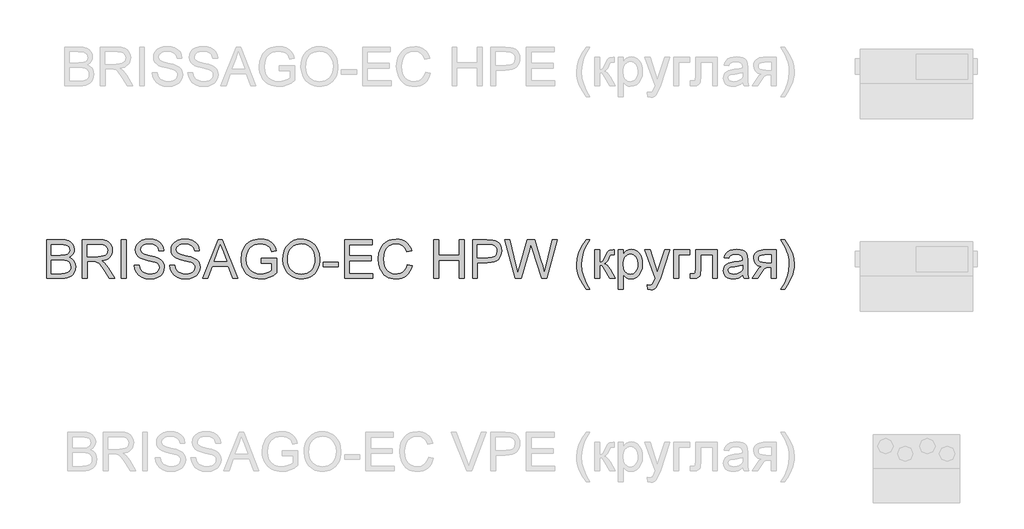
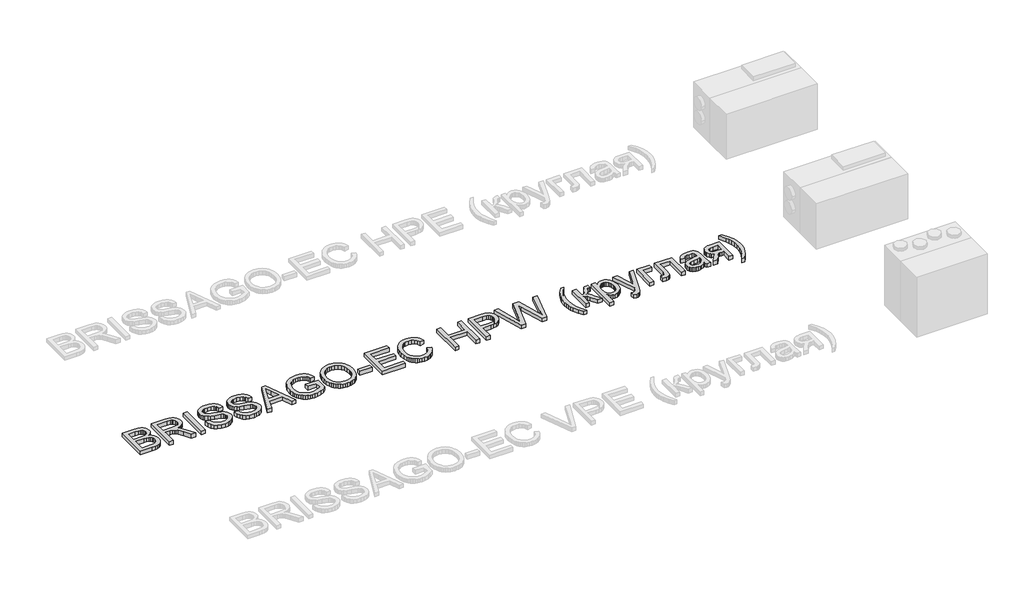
# One storey, part 7 of 28: 1 proxy.
"""IFC4 building model written with IfcOpenShell, lengths in millimetres."""

import ifcopenshell
import ifcopenshell.guid

model = None  # the IFC model being written
_history = None  # IfcOwnerHistory: only IFC2X3 demands one
_inside = {}  # id of a spatial element -> (the spatial element, [elements in it])
_under = {}  # id of a project, library or spatial element -> (it, [spatial elements below it])
_declared = {}  # id of a project -> (the project, [libraries it declares])
_typed = {}  # id of a type object -> (the type object, [elements of that type])
_made_of = {}  # id of a material, layer set ... -> (it, [elements and type objects made of it])


def new_model(schema):
    """Start an empty IFC model of exactly this schema.

    Asked for "IFC4X3", IfcOpenShell would pick the latest addendum, in which some entities
    have other attributes; the version numbers below select the first issue.
    IFC2X3 requires an IfcOwnerHistory on every rooted entity: one is made here for all.
    """
    global model, _history
    if schema == "IFC4X3":
        model = ifcopenshell.file(schema_version=(4, 3, 0, 0))
    else:
        model = ifcopenshell.file(schema=schema)
    _inside.clear()
    _under.clear()
    _declared.clear()
    _typed.clear()
    _made_of.clear()
    _history = None
    if model.schema == "IFC2X3":
        org = make("IfcOrganization", Name="unknown")
        user = make(
            "IfcPersonAndOrganization",
            ThePerson=make("IfcPerson", FamilyName="unknown"),
            TheOrganization=org,
        )
        app = make(
            "IfcApplication",
            ApplicationDeveloper=org,
            Version="unknown",
            ApplicationFullName="unknown",
            ApplicationIdentifier="unknown",
        )
        _history = make(
            "IfcOwnerHistory",
            OwningUser=user,
            OwningApplication=app,
            ChangeAction="ADDED",
            CreationDate=0,
        )
    return model


def make(cls, **values):
    """One entity of the class cls with the attributes given. An attribute that is None is left unset."""
    return model.create_entity(
        cls, **{name: value for name, value in values.items() if value is not None}
    )


def rooted(cls, **values):
    """An entity with a GlobalId (a new one), such as an element, a storey or a relation."""
    return make(cls, GlobalId=ifcopenshell.guid.new(), OwnerHistory=_history, **values)


def si_unit(unit_type, name, prefix=None):
    """IfcSIUnit, for example si_unit("LENGTHUNIT", "METRE", prefix="MILLI")."""
    return make("IfcSIUnit", UnitType=unit_type, Prefix=prefix, Name=name)


def assignment(units):
    """IfcUnitAssignment: the units of a project."""
    return None if units is None else make("IfcUnitAssignment", Units=units)


def point(xyz):
    """IfcCartesianPoint."""
    return None if xyz is None else make("IfcCartesianPoint", Coordinates=xyz)


def direction(xyz):
    """IfcDirection."""
    return None if xyz is None else make("IfcDirection", DirectionRatios=xyz)


def frame(location, z_axis=None, x_axis=None):
    """IfcAxis2Placement3D, a coordinate frame: its origin and axes. An axis left out is left unset."""
    return make(
        "IfcAxis2Placement3D",
        Location=point(location),
        Axis=direction(z_axis),
        RefDirection=direction(x_axis),
    )


def origin():
    """The frame at (0, 0, 0) with its axes left unset."""
    return frame((0.0, 0.0, 0.0))


def origin_with_axes():
    """The frame at (0, 0, 0) with the z axis (0, 0, 1) and the x axis (1, 0, 0) written out."""
    return frame((0.0, 0.0, 0.0), z_axis=(0.0, 0.0, 1.0), x_axis=(1.0, 0.0, 0.0))


def place(relative_to, where):
    """IfcLocalPlacement: puts the frame where relative to a parent placement (None: the world)."""
    return make(
        "IfcLocalPlacement", PlacementRelTo=relative_to, RelativePlacement=where
    )


def context(
    kind, dimensions, precision=None, world=None, true_north=None, identifier=None
):
    """IfcGeometricRepresentationContext, for example the 3D "Model" context."""
    return make(
        "IfcGeometricRepresentationContext",
        ContextIdentifier=identifier,
        ContextType=kind,
        CoordinateSpaceDimension=dimensions,
        Precision=precision,
        WorldCoordinateSystem=world,
        TrueNorth=true_north,
    )


def project(units=None, contexts=None):
    """IfcProject with its units and contexts."""
    return rooted(
        "IfcProject",
        Name="project",
        RepresentationContexts=contexts,
        UnitsInContext=assignment(units),
    )


def spatial(cls, under=None, at=None, **own):
    """A site, building, storey or space (cls), placed at a placement, below another one or the project."""
    s = rooted(cls, ObjectPlacement=at, **own)
    if under is not None:
        _under.setdefault(under.id(), (under, []))[1].append(s)
    return s


def polyline(points):
    """IfcPolyline through the points."""
    return make("IfcPolyline", Points=[point(p) for p in points])


def outline(outer, holes=None, kind="AREA"):
    """IfcArbitraryClosedProfileDef: a profile drawn as a closed curve; with holes, ...WithVoids."""
    if holes is None:
        return make("IfcArbitraryClosedProfileDef", ProfileType=kind, OuterCurve=outer)
    return make(
        "IfcArbitraryProfileDefWithVoids",
        ProfileType=kind,
        OuterCurve=outer,
        InnerCurves=holes,
    )


def extrude(swept, where, along, depth):
    """IfcExtrudedAreaSolid: the profile swept, set in the frame where, extruded along a direction by depth."""
    return make(
        "IfcExtrudedAreaSolid",
        SweptArea=swept,
        Position=where,
        ExtrudedDirection=direction(along),
        Depth=depth,
    )


def shape(context_of_items, identifier, shape_type, items):
    """IfcShapeRepresentation: the items that make up one representation, for example the "Body"."""
    return make(
        "IfcShapeRepresentation",
        ContextOfItems=context_of_items,
        RepresentationIdentifier=identifier,
        RepresentationType=shape_type,
        Items=items,
    )


def made_of(thing, what):
    """Note that an element or type object is made of a material, layer set ...; save() writes the relation."""
    if what is not None:
        _made_of.setdefault(what.id(), (what, []))[1].append(thing)
    return thing


def element(
    cls,
    number,
    at=None,
    inside=None,
    cuts=None,
    type_object=None,
    material=None,
    context=None,
    identifier="Body",
    shape_type=None,
    held_by="IfcProductDefinitionShape",
    body=None,
    shapes=None,
    **own,
):
    """One element of the class cls, such as IfcWall. Its Tag is "e" and its number.

    at: its placement. inside: the storey or other place that contains it. cuts: it is an
    opening in that element (IfcRelVoidsElement). A single representation is given by context,
    identifier, shape_type and body (its items); several are given by shapes. held_by: the class
    of the entity that holds the representations. save() writes the other relations.
    """
    e = rooted(cls, Tag="e%d" % number, ObjectPlacement=at, **own)
    if body is not None:
        shapes = [shape(context, identifier, shape_type, body)]
    if shapes is not None:
        e.Representation = make(held_by, Representations=shapes)
    if inside is not None:
        _inside.setdefault(inside.id(), (inside, []))[1].append(e)
    if cuts is not None:
        rooted(
            "IfcRelVoidsElement", RelatingBuildingElement=cuts, RelatedOpeningElement=e
        )
    if type_object is not None:
        _typed.setdefault(type_object.id(), (type_object, []))[1].append(e)
    return made_of(e, material)


def aggregate(whole, parts):
    """IfcRelAggregates: a whole, such as a stair, and the parts it consists of."""
    return rooted("IfcRelAggregates", RelatingObject=whole, RelatedObjects=parts)


def save(model, path):
    """Write the relations noted so far, then the file.

    IfcRelAggregates (storeys below a building ...), IfcRelContainedInSpatialStructure (elements
    in a storey), IfcRelDefinesByType, IfcRelAssociatesMaterial and IfcRelDeclares: one each for
    every whole, place, type object, material and project.
    """
    for whole, parts in _under.values():
        aggregate(whole, parts)
    for where, things in _inside.values():
        rooted(
            "IfcRelContainedInSpatialStructure",
            RelatedElements=things,
            RelatingStructure=where,
        )
    for kind, things in _typed.values():
        rooted("IfcRelDefinesByType", RelatedObjects=things, RelatingType=kind)
    for what, things in _made_of.values():
        rooted("IfcRelAssociatesMaterial", RelatedObjects=things, RelatingMaterial=what)
    for by, libraries in _declared.values():
        rooted("IfcRelDeclares", RelatingContext=by, RelatedDefinitions=libraries)
    model.write(path)


model = new_model("IFC4")

# Units and contexts
model_context = context("Model", 3, world=origin())
ifc_project = project(units=[si_unit("LENGTHUNIT", "METRE", prefix="MILLI")], contexts=[model_context])

# Site, building, storey
site = spatial("IfcSite", under=ifc_project)
building = spatial("IfcBuilding", under=site)
storey = spatial("IfcBuildingStorey", under=building, Name="Уровень 1", Elevation=0.0)

# Proxy
placement = place(None, origin())
element("IfcBuildingElementProxy", 1, Name="400 мм Arial", ObjectType="400 мм Arial", at=placement, inside=storey, context=model_context, shape_type="SweptSolid", body=[
    extrude(outline(polyline([(-29713.9650694, -8348.7092589), (-29713.9650694, -7946.8840183), (-29560.6318538, -7946.8840183), (-29518.4603145, -7949.839337), (-29485.5348759, -7958.705293), (-29460.298171, -7973.7026157), (-29441.1928327, -7995.0520342), (-29429.1630915, -8020.1661117), (-29425.1531778, -8046.4574116), (-29428.5254294, -8070.6517842), (-29438.6421842, -8093.3991542), (-29455.5770188, -8113.3015701), (-29479.4035093, -8128.9610804), (-29450.9417056, -8143.823513), (-29429.9111182, -8166.435993), (-29416.9248838, -8195.3024669), (-29412.596139, -8228.9268812), (-29415.5514577, -8256.9472265), (-29424.4174138, -8282.9319581), (-29437.6489029, -8305.0294033), (-29453.7008206, -8321.3878893), (-29473.3579819, -8333.2336896), (-29497.4052016, -8341.7930773), (-29526.6272948, -8346.9802135), (-29561.8090762, -8348.7092589), (-29713.9650694, -8348.7092589)]), holes=[polyline([(-29663.7369144, -8110.1255223), (-29572.0116702, -8110.1255223), (-29518.4480517, -8105.8090402), (-29499.6983327, -8098.3655611), (-29486.221589, -8087.2187367), (-29478.0913969, -8072.5402451), (-29475.3813328, -8054.5017646), (-29477.9074559, -8036.9905816), (-29485.485825, -8021.7357415), (-29497.7730836, -8009.8286276), (-29514.4258753, -8002.3606231), (-29539.9814112, -7998.4242858), (-29578.9769027, -7997.1121733), (-29663.7369144, -7997.1121733), (-29663.7369144, -8110.1255223)]), polyline([(-29663.7369144, -8298.4811038), (-29560.7299557, -8298.4811038), (-29523.4512469, -8296.5190665), (-29491.9114972, -8285.5807085), (-29480.335477, -8276.1506667), (-29471.0157998, -8263.2625341), (-29464.8721705, -8247.4926593), (-29462.8242941, -8229.4173906), (-29465.2277898, -8208.4235914), (-29472.4382769, -8190.3728481), (-29485.0321038, -8176.2584423), (-29503.5856191, -8167.0736551), (-29529.8646563, -8162.0336718), (-29565.635049, -8160.3536773), (-29663.7369144, -8160.3536773), (-29663.7369144, -8298.4811038)])]), origin_with_axes(), (0.0, 0.0, 1.0), 50.0),
    extrude(outline(polyline([(-29343.5324258, -8348.7092589), (-29343.5324258, -7946.8840183), (-29170.3826334, -7946.8840183), (-29123.845561, -7949.5940823), (-29089.9881547, -7957.7242744), (-29065.2419591, -7972.7338598), (-29046.038519, -7996.0821037), (-29033.7144722, -8025.0344168), (-29029.6064565, -8056.8562094), (-29031.3079108, -8077.4943893), (-29036.4122735, -8096.440312), (-29044.9195446, -8113.6939776), (-29056.8297242, -8129.255386), (-29072.2960964, -8142.6278965), (-29091.4719454, -8153.3148685), (-29114.3572712, -8161.3163019), (-29140.9520738, -8166.6321967), (-29112.4044309, -8188.1165052), (-29071.6921568, -8239.8161883), (-29004.6885827, -8348.7092589), (-29063.0591926, -8348.7092589), (-29115.3474869, -8265.4207751), (-29153.1167051, -8210.2875268), (-29167.1575345, -8194.2110836), (-29179.6532596, -8184.2414815), (-29203.5410639, -8174.6765497), (-29232.6773179, -8172.9107161), (-29293.3042707, -8172.9107161), (-29293.3042707, -8348.7092589), (-29343.5324258, -8348.7092589)]), holes=[polyline([(-29293.3042707, -8122.682561), (-29180.879533, -8122.682561), (-29148.5917565, -8120.9044647), (-29123.5389926, -8115.5701758), (-29104.678909, -8106.324075), (-29090.9691733, -8092.810543), (-29082.6182521, -8076.4643197), (-29079.8346116, -8058.7201448), (-29085.1443751, -8034.2192039), (-29101.0736655, -8014.4762035), (-29113.2352311, -8006.8794403), (-29128.4808741, -8001.4531809), (-29168.2243923, -7997.1121733), (-29293.3042707, -7997.1121733), (-29293.3042707, -8122.682561)])]), origin_with_axes(), (0.0, 0.0, 1.0), 50.0),
    extrude(outline(polyline([(-28935.4286658, -8348.7092589), (-28935.4286658, -7946.8840183), (-28885.2005107, -7946.8840183), (-28885.2005107, -8348.7092589), (-28935.4286658, -8348.7092589)])), origin_with_axes(), (0.0, 0.0, 1.0), 50.0),
    extrude(outline(polyline([(-28803.5797587, -8210.5818324), (-28753.3516036, -8210.5818324), (-28747.588119, -8238.4550249), (-28737.1647958, -8260.8590384), (-28720.9044117, -8278.6400015), (-28697.6297441, -8292.6440428), (-28669.1802031, -8301.7307281), (-28637.3951988, -8304.7596232), (-28609.4116417, -8302.4664921), (-28584.9107008, -8295.5870988), (-28565.0573358, -8284.6977917), (-28551.0165063, -8270.3749194), (-28542.665585, -8253.9305942), (-28539.8819446, -8236.6769286), (-28541.9666092, -8219.8647214), (-28548.2206031, -8205.3333826), (-28560.9247947, -8192.9357594), (-28582.3600523, -8182.5246989), (-28655.4949929, -8163.3457842), (-28703.5035933, -8150.6538554), (-28734.2217399, -8138.5750632), (-28759.2254528, -8121.6770169), (-28776.9451023, -8101.1982525), (-28787.5033155, -8077.5802284), (-28791.0227199, -8051.264403), (-28786.6694497, -8021.8461061), (-28773.6096388, -7994.414372), (-28752.186644, -7971.1642299), (-28722.7438216, -7954.2907091), (-28687.4026246, -7944.0268014), (-28648.2845058, -7940.6054989), (-28605.9045, -7944.186217), (-28568.8219949, -7954.9283712), (-28538.3613657, -7972.6112325), (-28515.8469875, -7997.0140715), (-28501.5976916, -8026.6163093), (-28495.9323089, -8059.8973672), (-28546.160464, -8059.8973672), (-28555.3820393, -8029.9272473), (-28563.7452233, -8018.0691843), (-28574.6100049, -8008.295786), (-28604.6537012, -7995.199187), (-28646.3224685, -7990.8336539), (-28688.9722545, -7995.150136), (-28705.2755582, -8000.5457386), (-28718.2311358, -8008.0995823), (-28735.1537076, -8027.1558696), (-28740.7945649, -8049.792875), (-28736.7969139, -8069.0944171), (-28724.8039608, -8084.6190373), (-28696.4525217, -8098.5004512), (-28642.7908014, -8112.6761708), (-28587.4122983, -8126.1406518), (-28553.9105113, -8137.8883502), (-28525.2770294, -8156.1107716), (-28505.301037, -8178.6006243), (-28493.5656014, -8205.1126534), (-28489.6537895, -8235.4016043), (-28494.1542126, -8266.3650056), (-28507.6554818, -8295.4889969), (-28529.6057742, -8320.5540235), (-28559.4532667, -8339.3405307), (-28595.3462867, -8351.0759664), (-28635.4331614, -8354.9877782), (-28684.6435097, -8350.769398), (-28725.1473173, -8338.1142574), (-28757.4105683, -8316.9733054), (-28781.8992465, -8287.2974911), (-28797.6200704, -8251.1469537), (-28803.5797587, -8210.5818324)])), origin_with_axes(), (0.0, 0.0, 1.0), 50.0),
    extrude(outline(polyline([(-28433.147115, -8210.5818324), (-28382.91896, -8210.5818324), (-28377.1554754, -8238.4550249), (-28366.7321522, -8260.8590384), (-28350.471768, -8278.6400015), (-28327.1971004, -8292.6440428), (-28298.7475595, -8301.7307281), (-28266.9625551, -8304.7596232), (-28238.978998, -8302.4664921), (-28214.4780571, -8295.5870988), (-28194.6246921, -8284.6977917), (-28180.5838626, -8270.3749194), (-28172.2329413, -8253.9305942), (-28169.4493009, -8236.6769286), (-28171.5339655, -8219.8647214), (-28177.7879594, -8205.3333826), (-28190.492151, -8192.9357594), (-28211.9274086, -8182.5246989), (-28285.0623492, -8163.3457842), (-28333.0709496, -8150.6538554), (-28363.7890962, -8138.5750632), (-28388.7928091, -8121.6770169), (-28406.5124586, -8101.1982525), (-28417.0706718, -8077.5802284), (-28420.5900763, -8051.264403), (-28416.236806, -8021.8461061), (-28403.1769952, -7994.414372), (-28381.7540003, -7971.1642299), (-28352.311178, -7954.2907091), (-28316.969981, -7944.0268014), (-28277.8518621, -7940.6054989), (-28235.4718563, -7944.186217), (-28198.3893512, -7954.9283712), (-28167.928722, -7972.6112325), (-28145.4143439, -7997.0140715), (-28131.1650479, -8026.6163093), (-28125.4996652, -8059.8973672), (-28175.7278203, -8059.8973672), (-28184.9493956, -8029.9272473), (-28193.3125796, -8018.0691843), (-28204.1773612, -8008.295786), (-28234.2210575, -7995.199187), (-28275.8898248, -7990.8336539), (-28318.5396108, -7995.150136), (-28334.8429146, -8000.5457386), (-28347.7984922, -8008.0995823), (-28364.7210639, -8027.1558696), (-28370.3619212, -8049.792875), (-28366.3642702, -8069.0944171), (-28354.3713171, -8084.6190373), (-28326.019878, -8098.5004512), (-28272.3581577, -8112.6761708), (-28216.9796547, -8126.1406518), (-28183.4778676, -8137.8883502), (-28154.8443857, -8156.1107716), (-28134.8683933, -8178.6006243), (-28123.1329577, -8205.1126534), (-28119.2211458, -8235.4016043), (-28123.7215689, -8266.3650056), (-28137.2228381, -8295.4889969), (-28159.1731305, -8320.5540235), (-28189.020623, -8339.3405307), (-28224.913643, -8351.0759664), (-28265.0005178, -8354.9877782), (-28314.210866, -8350.769398), (-28354.7146737, -8338.1142574), (-28386.9779246, -8316.9733054), (-28411.4666028, -8287.2974911), (-28427.1874267, -8251.1469537), (-28433.147115, -8210.5818324)])), origin_with_axes(), (0.0, 0.0, 1.0), 50.0),
    extrude(outline(polyline([(-28090.673503, -8348.7092589), (-27930.2769531, -7946.8840183), (-27887.5045398, -7946.8840183), (-27727.1079899, -8348.7092589), (-27780.1810991, -8348.7092589), (-27826.1908739, -8223.1388712), (-27991.6887208, -8223.1388712), (-28037.6003938, -8348.7092589), (-28090.673503, -8348.7092589)]), holes=[polyline([(-27973.2455701, -8172.9107161), (-27844.5359227, -8172.9107161), (-27880.7355111, -8074.1221377), (-27908.8907464, -7997.1121733), (-27933.9067221, -8065.4891735), (-27973.2455701, -8172.9107161)])]), origin_with_axes(), (0.0, 0.0, 1.0), 50.0),
    extrude(outline(polyline([(-27485.090688, -8191.7462742), (-27485.090688, -8141.5181192), (-27321.849184, -8141.5181192), (-27321.849184, -8291.7120751), (-27361.5191258, -8319.3032247), (-27402.4398664, -8339.0952761), (-27444.5133039, -8351.0146527), (-27487.6413365, -8354.9877782), (-27516.492482, -8353.4089513), (-27543.9885954, -8348.6724707), (-27570.1296769, -8340.7783362), (-27594.9157263, -8329.7265479), (-27617.5466004, -8315.6826527), (-27637.2221557, -8298.8121976), (-27653.9423924, -8279.1151824), (-27667.7073104, -8256.5916073), (-27678.4586617, -8231.9619077), (-27686.1381984, -8205.9465193), (-27690.7459203, -8178.545442), (-27692.2818277, -8149.7586759), (-27686.1627238, -8093.1661623), (-27678.513844, -8066.3506305), (-27667.8054123, -8040.5222488), (-27654.227501, -8016.8153199), (-27637.9701825, -7996.3641466), (-27619.0334568, -7979.168729), (-27597.4173239, -7965.2290671), (-27573.5908333, -7954.456256), (-27548.0230346, -7946.7613909), (-27520.7139279, -7942.1444719), (-27491.663513, -7940.6054989), (-27450.2890513, -7944.1739542), (-27413.0839188, -7954.8793203), (-27381.7526355, -7971.9490449), (-27357.9997214, -7994.6105758), (-27340.4272248, -8023.9552962), (-27327.6371941, -8061.0745896), (-27373.9412745, -8074.1221377), (-27384.2787586, -8047.6468967), (-27396.8480601, -8027.6709044), (-27413.4763263, -8012.6122681), (-27435.9907044, -8000.8890952), (-27462.8338273, -7993.3475143), (-27492.4483279, -7990.8336539), (-27527.1150746, -7993.543718), (-27556.7541007, -8001.6739101), (-27581.2550415, -8014.2064234), (-27600.5075326, -8030.123451), (-27615.2841261, -8048.6033899), (-27626.3573741, -8068.8246369), (-27638.129598, -8106.7410079), (-27642.0536726, -8147.6985367), (-27637.3325203, -8195.7316625), (-27623.1690635, -8235.2544515), (-27599.9924978, -8265.9848609), (-27568.2320189, -8287.6408477), (-27531.0636747, -8300.4799293), (-27491.663513, -8304.7596232), (-27456.874139, -8301.5345243), (-27422.9431563, -8291.8592279), (-27393.4758085, -8278.5296369), (-27372.0773391, -8264.3416546), (-27372.0773391, -8191.7462742), (-27485.090688, -8191.7462742)])), origin_with_axes(), (0.0, 0.0, 1.0), 50.0),
    extrude(outline(polyline([(-27259.0639902, -8153.0941393), (-27255.716264, -8105.9623243), (-27245.6730855, -8064.2383747), (-27228.9344548, -8027.9222904), (-27205.5003717, -7997.0140715), (-27176.7749192, -7972.335321), (-27144.1621803, -7954.707642), (-27107.662155, -7944.1310347), (-27067.2748433, -7940.6054989), (-27040.2416481, -7942.2609679), (-27014.5696162, -7947.2273748), (-26990.2587476, -7955.5047197), (-26967.3090425, -7967.0930025), (-26946.3642943, -7981.6427354), (-26928.0682964, -7998.8044305), (-26912.4210488, -8018.5780878), (-26899.4225517, -8040.9637072), (-26889.2076949, -8065.4523853), (-26881.9113687, -8091.5352188), (-26876.0743077, -8148.4833516), (-26877.610215, -8178.1407718), (-26882.217937, -8206.1917739), (-26889.8974737, -8232.636358), (-26900.648825, -8257.4745241), (-26914.2175392, -8280.0502158), (-26930.3491647, -8299.7073771), (-26949.0437015, -8316.4460079), (-26970.3011494, -8330.2661082), (-26993.2845771, -8341.0818388), (-27017.1570529, -8348.8073607), (-27041.9185768, -8353.4426739), (-27067.5691489, -8354.9877782), (-27095.0744594, -8353.2801926), (-27121.0837165, -8348.1574359), (-27145.5969201, -8339.6195079), (-27168.6140703, -8327.6664087), (-27189.5342931, -8312.7610566), (-27207.7567146, -8295.3663696), (-27223.2813348, -8275.4823477), (-27236.1081537, -8253.108991), (-27253.325031, -8204.487254), (-27259.0639902, -8153.0941393)]), holes=[polyline([(-27208.8358351, -8153.5846486), (-27206.3250405, -8186.8841005), (-27198.7926566, -8216.4434189), (-27186.2386835, -8242.2626036), (-27168.6631212, -8264.3416546), (-27147.2983743, -8282.0245159), (-27123.3768476, -8294.655131), (-27096.898541, -8302.2335001), (-27067.8634545, -8304.7596232), (-27038.3317274, -8302.2089747), (-27011.5407211, -8294.5570292), (-26987.4904356, -8281.8037867), (-26966.1808711, -8263.9492472), (-26948.7340674, -8241.4042122), (-26936.2720649, -8214.5794834), (-26928.7948633, -8183.4750607), (-26926.3024628, -8148.0909442), (-26930.5698939, -8103.6262737), (-26943.3721874, -8065.1948679), (-26964.3782493, -8033.7654828), (-26993.2569859, -8010.3068742), (-27028.0954109, -7995.701959), (-27066.9805377, -7990.8336539), (-27095.0070144, -7993.1789017), (-27121.0101401, -8000.2146448), (-27144.9899148, -8011.9408834), (-27166.9463386, -8028.3576175), (-27185.2729933, -8050.2557932), (-27198.363461, -8078.426357), (-27206.2177416, -8112.8693088), (-27208.8358351, -8153.5846486)])]), origin_with_axes(), (0.0, 0.0, 1.0), 50.0),
    extrude(outline(polyline([(-26838.4031914, -8229.4173906), (-26838.4031914, -8179.1892355), (-26681.4402068, -8179.1892355), (-26681.4402068, -8229.4173906), (-26838.4031914, -8229.4173906)])), origin_with_axes(), (0.0, 0.0, 1.0), 50.0),
    extrude(outline(polyline([(-26618.655013, -8348.7092589), (-26618.655013, -7946.8840183), (-26329.8431213, -7946.8840183), (-26329.8431213, -7997.1121733), (-26568.4268579, -7997.1121733), (-26568.4268579, -8116.4040416), (-26342.40016, -8116.4040416), (-26342.40016, -8166.6321967), (-26568.4268579, -8166.6321967), (-26568.4268579, -8298.4811038), (-26323.5646019, -8298.4811038), (-26323.5646019, -8348.7092589), (-26618.655013, -8348.7092589)])), origin_with_axes(), (0.0, 0.0, 1.0), 50.0),
    extrude(outline(polyline([(-25965.688997, -8205.8729429), (-25915.4608419, -8218.8223891), (-25925.3997871, -8250.0586362), (-25938.6374076, -8277.3524145), (-25955.1737033, -8300.7037242), (-25975.0086742, -8320.1125651), (-25997.6947306, -8335.3704708), (-26022.7842826, -8346.268975), (-26050.2773304, -8352.8080774), (-26080.1738739, -8354.9877782), (-26110.8031157, -8353.3384406), (-26138.4341192, -8348.3904278), (-26163.0668844, -8340.1437397), (-26184.7014114, -8328.5983765), (-26203.6350715, -8313.9260162), (-26220.1652358, -8296.2983373), (-26234.2919044, -8275.7153396), (-26246.0150773, -8252.1770233), (-26261.7972149, -8200.305662), (-26267.0579274, -8144.7554807), (-26261.1105018, -8086.1641416), (-26253.6762199, -8059.8667103), (-26243.2682251, -8035.5681046), (-26230.1195094, -8013.6699288), (-26214.4630649, -7994.5737876), (-26196.2988913, -7978.2796809), (-26175.6269889, -7964.7876087), (-26153.149399, -7954.2079356), (-26129.5681631, -7946.6510263), (-26079.0947534, -7940.6054989), (-26050.3662352, -7942.5614048), (-26024.0228187, -7948.4291226), (-26000.0645037, -7958.2086523), (-25978.4912904, -7971.8999939), (-25959.6587979, -7989.1413968), (-25943.9226456, -8009.5711102), (-25931.2828334, -8033.1891343), (-25921.7393613, -8059.995469), (-25971.9675164, -8071.9638966), (-25989.3805975, -8035.3351126), (-26013.1702998, -8010.2087724), (-26043.630929, -7995.6774336), (-26081.0567907, -7990.8336539), (-26124.197086, -7996.2047311), (-26142.87936, -8002.9185775), (-26159.6363848, -8012.3179625), (-26186.5285587, -8037.4810909), (-26204.0274789, -8070.0018593), (-26213.629199, -8106.7655334), (-26216.8297724, -8144.6573789), (-26213.0405878, -8191.0595612), (-26201.6730342, -8231.1832241), (-26182.2979157, -8263.495526), (-26154.4860369, -8286.4636253), (-26121.1436654, -8300.1856237), (-26085.177069, -8304.7596232), (-26063.3402069, -8303.2022561), (-26043.2507843, -8298.5301547), (-26024.9088012, -8290.7433192), (-26008.3142575, -8279.8417494), (-25993.8595608, -8265.8744963), (-25981.9371184, -8248.8906108), (-25972.5469305, -8228.890093), (-25965.688997, -8205.8729429)])), origin_with_axes(), (0.0, 0.0, 1.0), 50.0),
    extrude(outline(polyline([(-25689.4341441, -8348.7092589), (-25689.4341441, -7946.8840183), (-25639.205989, -7946.8840183), (-25639.205989, -8110.1255223), (-25425.7363299, -8110.1255223), (-25425.7363299, -7946.8840183), (-25375.5081749, -7946.8840183), (-25375.5081749, -8348.7092589), (-25425.7363299, -8348.7092589), (-25425.7363299, -8160.3536773), (-25639.205989, -8160.3536773), (-25639.205989, -8348.7092589), (-25689.4341441, -8348.7092589)])), origin_with_axes(), (0.0, 0.0, 1.0), 50.0),
    extrude(outline(polyline([(-25287.6089035, -8348.7092589), (-25287.6089035, -7946.8840183), (-25138.6902718, -7946.8840183), (-25078.6519302, -7950.709991), (-25051.8823837, -7957.8591644), (-25029.8462522, -7969.4964982), (-25012.1020773, -7986.1492899), (-24998.2084006, -8008.3448369), (-24989.2320799, -8034.5257722), (-24986.239973, -8063.1347287), (-24988.2602583, -8087.8012165), (-24994.3211142, -8110.4934042), (-25004.4225406, -8131.2112919), (-25018.5645377, -8149.9548796), (-25037.97951, -8165.4917625), (-25063.8998622, -8176.589536), (-25096.3255944, -8183.2482002), (-25135.2567065, -8185.4677549), (-25237.3807484, -8185.4677549), (-25237.3807484, -8348.7092589), (-25287.6089035, -8348.7092589)]), holes=[polyline([(-25237.3807484, -8135.2395998), (-25132.3136506, -8135.2395998), (-25087.7754037, -8130.6288121), (-25071.171663, -8124.8653275), (-25058.3448441, -8116.7964491), (-25048.7737808, -8106.6367747), (-25041.9373071, -8094.6009021), (-25036.4681281, -8064.9005623), (-25039.6932269, -8042.3371333), (-25049.3685234, -8023.3053714), (-25064.2922697, -8008.982499), (-25083.2627179, -8000.5457386), (-25133.490873, -7997.1121733), (-25237.3807484, -7997.1121733), (-25237.3807484, -8135.2395998)])]), origin_with_axes(), (0.0, 0.0, 1.0), 50.0),
    extrude(outline(polyline([(-24845.2675925, -8348.7092589), (-24954.8473761, -7946.8840183), (-24903.0495912, -7946.8840183), (-24839.4795824, -8210.9742399), (-24819.8592093, -8292.49689), (-24798.8654101, -8220.3920189), (-24719.2066955, -7946.8840183), (-24644.5511759, -7946.8840183), (-24586.6710753, -8145.1478882), (-24561.8758289, -8218.7242872), (-24543.6043564, -8292.49689), (-24524.5725945, -8213.3286846), (-24460.4139746, -7946.8840183), (-24408.6161897, -7946.8840183), (-24518.2940752, -8348.7092589), (-24571.9557955, -8348.7092589), (-24668.2918273, -8038.7073643), (-24681.7317829, -7995.4444416), (-24696.8394702, -8047.5365321), (-24784.6406397, -8348.7092589), (-24845.2675925, -8348.7092589)])), origin_with_axes(), (0.0, 0.0, 1.0), 50.0),
    extrude(outline(polyline([(-24107.2472592, -8461.7226078), (-24146.1691743, -8407.1043942), (-24178.5673153, -8343.9022675), (-24191.3144265, -8309.8486574), (-24200.4195059, -8275.1819108), (-24205.8825535, -8239.9020274), (-24207.7035694, -8204.0090074), (-24202.2589158, -8141.5916956), (-24185.9249552, -8081.872185), (-24153.5022887, -8014.2309488), (-24107.2472592, -7946.8840183), (-24069.5761429, -7946.8840183), (-24116.5669364, -8026.4446311), (-24132.6065914, -8064.2138493), (-24144.8202737, -8103.5526973), (-24154.3116291, -8153.8053778), (-24157.4754143, -8204.303313), (-24151.9817098, -8268.6949249), (-24135.5005964, -8333.0620113), (-24108.0320741, -8397.4045723), (-24069.5761429, -8461.7226078), (-24107.2472592, -8461.7226078)])), origin_with_axes(), (0.0, 0.0, 1.0), 50.0),
    extrude(outline(polyline([(-24019.3479878, -8053.6188478), (-23969.1198328, -8053.6188478), (-23969.1198328, -8179.1892355), (-23948.6901193, -8176.9328926), (-23935.4708929, -8170.1638639), (-23923.7722455, -8152.5055281), (-23907.9042688, -8117.581264), (-23884.9974832, -8072.2091513), (-23875.5551787, -8063.0488896), (-23864.7884989, -8057.4448205), (-23828.0493503, -8053.6188478), (-23818.4353675, -8053.6188478), (-23818.4353675, -8104.1413085), (-23831.973425, -8103.8470029), (-23847.6697234, -8105.1713781), (-23856.4988913, -8109.1445036), (-23873.7648196, -8142.2048322), (-23884.3720838, -8164.2409637), (-23894.0228548, -8177.9629622), (-23905.7092395, -8187.1232238), (-23922.4233448, -8195.4741451), (-23906.5063172, -8202.5436108), (-23890.7364423, -8215.0209418), (-23875.1137203, -8232.9061381), (-23859.638151, -8256.1991998), (-23805.8783288, -8348.7092589), (-23862.9736144, -8348.7092589), (-23915.6543161, -8258.1612371), (-23929.8790866, -8234.0649664), (-23942.1418198, -8219.8524587), (-23954.5271803, -8212.899489), (-23969.1198328, -8210.5818324), (-23969.1198328, -8348.7092589), (-24019.3479878, -8348.7092589), (-24019.3479878, -8053.6188478)])), origin_with_axes(), (0.0, 0.0, 1.0), 50.0),
    extrude(outline(polyline([(-23774.4857318, -8461.7226078), (-23774.4857318, -8053.6188478), (-23724.2575768, -8053.6188478), (-23724.2575768, -8102.8659842), (-23707.8745653, -8078.5735098), (-23689.5295164, -8061.2217424), (-23668.1433098, -8050.8106819), (-23642.6368248, -8047.3403284), (-23608.6690539, -8052.1963707), (-23578.9687141, -8066.7644978), (-23554.7866043, -8090.1617926), (-23537.3735232, -8121.5053386), (-23526.8520982, -8158.5142674), (-23523.3449565, -8198.9077104), (-23527.3058193, -8241.8640647), (-23539.1884077, -8280.2832078), (-23558.6125771, -8312.2153649), (-23585.1981826, -8335.7107617), (-23616.1615839, -8350.1685241), (-23648.7191404, -8354.9877782), (-23671.809867, -8351.7626794), (-23692.4235215, -8342.0873829), (-23710.0695945, -8327.4824677), (-23724.2575768, -8309.4685127), (-23724.2575768, -8461.7226078), (-23774.4857318, -8461.7226078)]), holes=[polyline([(-23724.2575768, -8203.5184981), (-23718.825186, -8248.5472543), (-23712.0346975, -8265.9848609), (-23702.5280136, -8280.0379531), (-23678.4807938, -8298.5792056), (-23664.7189415, -8303.2145188), (-23649.7982609, -8304.7596232), (-23634.6629825, -8303.1593365), (-23620.6497442, -8298.3584765), (-23607.7585459, -8290.3570431), (-23595.9893878, -8279.1550363), (-23586.1822669, -8264.5930407), (-23579.1771806, -8246.5116406), (-23574.9741288, -8224.9108361), (-23573.5731115, -8199.7906272), (-23579.0422905, -8155.0071257), (-23585.8787643, -8137.434629), (-23595.4498275, -8123.0749685), (-23619.4602591, -8103.9451047), (-23633.0657615, -8099.1626388), (-23647.7381218, -8097.5684835), (-23662.3644968, -8099.2638063), (-23676.1263491, -8104.3497749), (-23701.0564856, -8124.6936493), (-23711.206963, -8139.7921395), (-23718.457304, -8157.9624444), (-23722.8075086, -8179.2045639), (-23724.2575768, -8203.5184981)])]), origin_with_axes(), (0.0, 0.0, 1.0), 50.0),
    extrude(outline(polyline([(-23466.838282, -8461.7226078), (-23473.1168014, -8413.3583881), (-23447.6103164, -8417.7729721), (-23434.1948863, -8416.3872832), (-23423.7715631, -8412.2302167), (-23409.1543852, -8396.7791729), (-23395.420124, -8359.7947696), (-23391.4960494, -8347.6301383), (-23498.2308789, -8053.6188478), (-23445.2558716, -8053.6188478), (-23388.6510953, -8217.448963), (-23368.9326204, -8282.9810091), (-23349.2141454, -8225.1009085), (-23291.0397392, -8053.6188478), (-23238.4571394, -8053.6188478), (-23341.1697925, -8355.7725932), (-23367.8534998, -8421.3046392), (-23381.5141846, -8442.224862), (-23396.9897539, -8456.7194126), (-23414.9669207, -8465.1806985), (-23436.1323981, -8468.0011272), (-23466.838282, -8461.7226078)])), origin_with_axes(), (0.0, 0.0, 1.0), 50.0),
    extrude(outline(polyline([(-23196.8619485, -8053.6188478), (-23033.6204445, -8053.6188478), (-23033.6204445, -8103.8470029), (-23146.6337934, -8103.8470029), (-23146.6337934, -8348.7092589), (-23196.8619485, -8348.7092589), (-23196.8619485, -8053.6188478)])), origin_with_axes(), (0.0, 0.0, 1.0), 50.0),
    extrude(outline(polyline([(-22970.8352506, -8053.6188478), (-22744.8085528, -8053.6188478), (-22744.8085528, -8348.4149533), (-22795.0367079, -8348.4149533), (-22795.0367079, -8103.8470029), (-22920.6070956, -8103.8470029), (-22920.6070956, -8244.6231797), (-22923.9916099, -8309.5666146), (-22930.331443, -8324.2696316), (-22942.5819134, -8336.9860859), (-22961.1722169, -8345.7784656), (-22986.5315491, -8348.7092589), (-23027.3419251, -8346.1586104), (-23027.3419251, -8298.4811038), (-23004.8765979, -8298.4811038), (-22982.1660161, -8295.390895), (-22973.0915936, -8285.5807085), (-22970.8352506, -8241.7782256), (-22970.8352506, -8053.6188478)])), origin_with_axes(), (0.0, 0.0, 1.0), 50.0),
    extrude(outline(polyline([(-22481.1107387, -8311.0381426), (-22505.1089075, -8331.6150088), (-22529.8183148, -8345.0794898), (-22555.8030464, -8352.5107061), (-22583.627188, -8354.9877782), (-22605.9913476, -8353.4978562), (-22625.6025236, -8349.0280899), (-22642.4607161, -8341.5784795), (-22656.5659249, -8331.149025), (-22667.7035523, -8318.4019138), (-22675.6590005, -8303.9993337), (-22680.4322693, -8287.9412846), (-22682.023359, -8270.2277666), (-22679.6198633, -8249.4056456), (-22672.4093762, -8230.4965111), (-22661.2870772, -8214.3097033), (-22647.1481458, -8201.6545627), (-22630.5321424, -8192.0896308), (-22611.9786271, -8185.1734493), (-22568.5195007, -8177.6196056), (-22517.1631742, -8169.6733545), (-22481.4050443, -8160.3536773), (-22481.1107387, -8149.1700647), (-22484.5688294, -8126.7537884), (-22494.9431017, -8112.0875596), (-22518.1441928, -8101.1982525), (-22550.4687575, -8097.5684835), (-22580.3898264, -8099.9842419), (-22601.2855238, -8107.2315172), (-22615.5348197, -8120.6346846), (-22625.5166845, -8141.5181192), (-22675.7448396, -8135.2395998), (-22667.0260363, -8107.7710775), (-22654.0152764, -8086.1886671), (-22635.4985493, -8069.6830282), (-22610.2618444, -8057.4448205), (-22579.396545, -8049.8664514), (-22543.9940344, -8047.3403284), (-22510.0385262, -8049.5721458), (-22483.1218269, -8056.2675982), (-22462.8270035, -8066.3353021), (-22448.7371231, -8078.6838744), (-22439.3929204, -8093.9509772), (-22433.3351302, -8112.7742726), (-22430.8825836, -8156.7239083), (-22430.8825836, -8219.2147966), (-22428.3319351, -8306.4764058), (-22418.3255448, -8348.7092589), (-22468.5536999, -8348.7092589), (-22476.5980529, -8331.2471268), (-22481.1107387, -8311.0381426)]), holes=[polyline([(-22481.1107387, -8210.5818324), (-22514.8577804, -8218.9450164), (-22562.1428795, -8225.9838253), (-22605.3567512, -8234.1262801), (-22616.6016775, -8239.693561), (-22624.9280733, -8247.3700319), (-22630.0784212, -8256.5670818), (-22631.7952039, -8266.6960994), (-22628.0550703, -8281.6321084), (-22616.8346694, -8293.8703161), (-22598.379256, -8302.0372964), (-22572.9340847, -8304.7596232), (-22545.9560717, -8301.7552535), (-22522.1173184, -8292.7421447), (-22502.7912509, -8279.4616046), (-22489.3512954, -8263.6549416), (-22483.391607, -8247.3700319), (-22481.4050443, -8224.8066029), (-22481.1107387, -8210.5818324)])]), origin_with_axes(), (0.0, 0.0, 1.0), 50.0),
    extrude(outline(polyline([(-22135.7921725, -8053.6188478), (-22135.7921725, -8348.7092589), (-22186.0203276, -8348.7092589), (-22186.0203276, -8235.6959099), (-22213.390748, -8235.6959099), (-22235.2184131, -8237.2900653), (-22250.6694569, -8242.0725312), (-22265.556415, -8255.9784706), (-22285.6918228, -8284.9430464), (-22325.7173839, -8348.7092589), (-22383.7936882, -8348.7092589), (-22333.3693294, -8268.0695255), (-22311.100206, -8239.1294752), (-22290.5969161, -8226.2781309), (-22324.932569, -8215.7567058), (-22338.2744227, -8206.945932), (-22349.0656279, -8195.7684507), (-22363.3394493, -8169.1828452), (-22368.0973897, -8138.8693688), (-22366.4725776, -8120.7818374), (-22361.5981412, -8104.484665), (-22353.4740804, -8089.9778516), (-22342.1003954, -8077.2613973), (-22327.6487644, -8066.9177819), (-22310.2908656, -8059.5294852), (-22290.026699, -8055.0965071), (-22266.8562647, -8053.6188478), (-22135.7921725, -8053.6188478)]), holes=[polyline([(-22186.0203276, -8103.8470029), (-22252.2390867, -8103.8470029), (-22286.4398496, -8106.7532706), (-22305.8517562, -8115.4720739), (-22314.864865, -8128.0904264), (-22317.8692347, -8142.6953416), (-22313.442388, -8161.837468), (-22300.161848, -8175.1180081), (-22275.6241189, -8182.8803182), (-22237.4257051, -8185.4677549), (-22186.0203276, -8185.4677549), (-22186.0203276, -8103.8470029)])]), origin_with_axes(), (0.0, 0.0, 1.0), 50.0),
    extrude(outline(polyline([(-22047.8929011, -8461.7226078), (-22085.5640175, -8461.7226078), (-22047.1080862, -8397.4045723), (-22019.6395639, -8333.0620113), (-22003.1584505, -8268.6949249), (-21997.6647461, -8204.303313), (-22000.8285312, -8154.1732598), (-22010.3198867, -8104.4356141), (-22022.3128397, -8065.0231896), (-22038.2789183, -8027.229446), (-22085.5640175, -7946.8840183), (-22047.8929011, -7946.8840183), (-22001.6378716, -8014.2309488), (-21969.2152051, -8081.872185), (-21952.8812445, -8141.5916956), (-21947.436591, -8204.0090074), (-21949.2668039, -8239.9020274), (-21954.7574427, -8275.1819108), (-21963.9085073, -8309.8486574), (-21976.7199978, -8343.9022675), (-22009.1549271, -8407.1043942), (-22047.8929011, -8461.7226078)])), origin_with_axes(), (0.0, 0.0, 1.0), 50.0),
])

save(model, "model.ifc")
